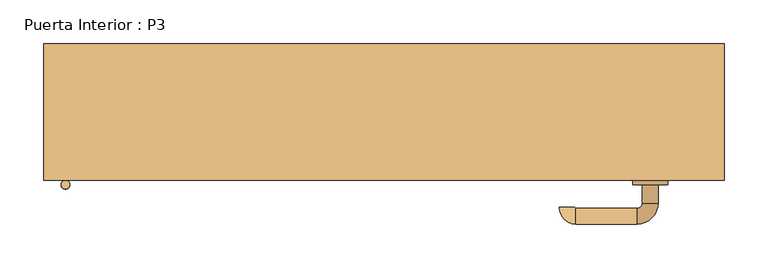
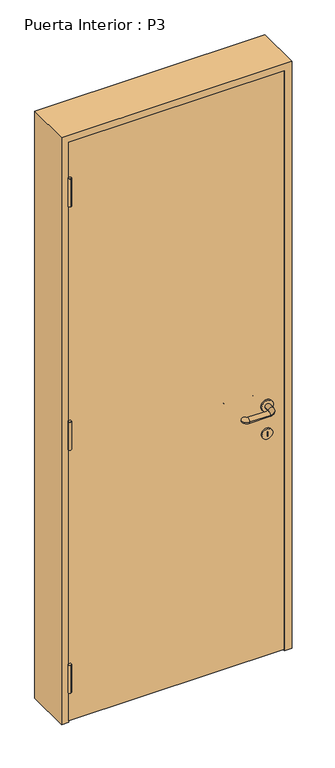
"""IFC4 building model written with IfcOpenShell, lengths in millimetres: door geometry, Puerta Interior : P3."""

from ifc_helpers import new_model, si_unit, point, frame, frame_2d, origin, place, context, project, spatial, polyline, circle_curve, ellipse_curve, trimmed, segment, composite_curve, outline, extrude, faceted_brep, source, transform, mapped, element, save
from ifc_brep_helpers import plane_surface, cylinder_surface, revolved_surface, advanced_brep


def puerta_interior_p3_6b3bcaa5(model_context):
    return source(origin(), model_context, "Body", "SolidModel", [
        extrude(outline(composite_curve([segment(trimmed(circle_curve(frame_2d((900.0, 305.0)), 20.0), [point((900.0, 325.0))], [point((900.0, 285.0))], False, "CARTESIAN"), True, "CONTINUOUS"), segment(trimmed(circle_curve(frame_2d((900.0, 305.0)), 20.0), [point((900.0, 285.0))], [point((900.0, 325.0))], False, "CARTESIAN"), True, "CONTINUOUS")], self_intersect=False)), frame((0.0, -38.25, 0.0), z_axis=(0.0, 1.0, 0.0), x_axis=(0.0, 0.0, 1.0)), (0.0, 0.0, 1.0), 5.0),
        advanced_brep(
        [(296.0, -33.25, 900.0), (314.0, -33.25, 900.0), (314.0, -12.25, 900.0), (296.0, -12.25, 900.0), (290.0, 11.75, 900.0), (290.0, -6.25, 900.0), (219.797959, 11.75, 900.0), (219.797959, -6.25, 900.0), (218.797959, -7.25, 900.0), (200.797959, -7.25, 900.0)],
        [
            (0, 1, circle_curve(frame((305.0, -33.25, 900.0), z_axis=(0.0, -1.0, 0.0), x_axis=(1.0, 0.0, 0.0)), 9.0)),
            (1, 0, circle_curve(frame((305.0, -33.25, 900.0), z_axis=(0.0, -1.0, 0.0), x_axis=(1.0, 0.0, 0.0)), 9.0)),
            (1, 2),
            (2, 3, circle_curve(frame((305.0, -12.25, 900.0), z_axis=(0.0, -1.0, 0.0), x_axis=(1.0, 0.0, 0.0)), 9.0)),
            (3, 0),
            (3, 2, circle_curve(frame((305.0, -12.25, 900.0), z_axis=(0.0, -1.0, 0.0), x_axis=(1.0, 0.0, 0.0)), 9.0)),
            (4, 5, circle_curve(frame((290.0, 2.75, 900.0), z_axis=(1.0, 0.0, 0.0), x_axis=(0.0, 1.0, 0.0)), 9.0)),
            (5, 3, circle_curve(frame((290.0, -12.25, 900.0), z_axis=(0.0, 0.0, -1.0), x_axis=(1.0, 0.0, 0.0)), 6.0)),
            (2, 4, circle_curve(frame((290.0, -12.25, 900.0), z_axis=(0.0, 0.0, 1.0), x_axis=(1.0, 0.0, 0.0)), 24.0)),
            (5, 4, circle_curve(frame((290.0, 2.75, 900.0), z_axis=(1.0, 0.0, 0.0), x_axis=(0.0, 1.0, 0.0)), 9.0)),
            (4, 6),
            (6, 7, circle_curve(frame((219.797959, 2.75, 900.0), z_axis=(1.0, 0.0, 0.0), x_axis=(0.0, 1.0, 0.0)), 9.0)),
            (7, 5),
            (7, 6, circle_curve(frame((219.797959, 2.75, 900.0), z_axis=(1.0, 0.0, 0.0), x_axis=(0.0, 1.0, 0.0)), 9.0)),
            (8, 9, circle_curve(frame((209.797959, -7.25, 900.0), z_axis=(0.0, -1.0, 0.0), x_axis=(-1.0, 0.0, 0.0)), 9.0)),
            (9, 8, circle_curve(frame((209.797959, -7.25, 900.0), z_axis=(0.0, -1.0, 0.0), x_axis=(-1.0, 0.0, 0.0)), 9.0)),
            (8, 7, circle_curve(frame((219.797959, -7.25, 900.0), z_axis=(0.0, 0.0, -1.0), x_axis=(0.0, 1.0, 0.0)), 1.0)),
            (6, 9, circle_curve(frame((219.797959, -7.25, 900.0), z_axis=(0.0, 0.0, 1.0), x_axis=(0.0, 1.0, 0.0)), 19.0)),
        ],
        [
            plane_surface(frame((305.0, -33.25, 900.0), z_axis=(0.0, -1.0, 0.0), x_axis=(0.0, 0.0, 1.0))),
            cylinder_surface(frame((305.0, -33.25, 900.0), z_axis=(0.0, -1.0, 0.0), x_axis=(1.0, 0.0, 0.0)), 9.0),
            revolved_surface(trimmed(ellipse_curve(frame((305.0, -12.25, 900.0), z_axis=(0.0, 1.0, 0.0), x_axis=(1.0, 0.0, 0.0)), 9.0, 9.0), [point((296.0, -12.25, 900.0))], [point((314.0, -12.25, 900.0))], True, "CARTESIAN"), (290.0, -12.25, 900.0), (0.0, 0.0, -1.0)),
            revolved_surface(trimmed(ellipse_curve(frame((305.0, -12.25, 900.0), z_axis=(0.0, 1.0, 0.0), x_axis=(1.0, 0.0, 0.0)), 9.0, 9.0), [point((314.0, -12.25, 900.0))], [point((296.0, -12.25, 900.0))], True, "CARTESIAN"), (290.0, -12.25, 900.0), (0.0, 0.0, -1.0)),
            cylinder_surface(frame((290.0, 2.75, 900.0), z_axis=(1.0, 0.0, 0.0), x_axis=(0.0, 1.0, 0.0)), 9.0),
            plane_surface(frame((209.797959, -7.25, 900.0), z_axis=(0.0, -1.0, 0.0), x_axis=(0.0, 0.0, 1.0))),
            revolved_surface(trimmed(ellipse_curve(frame((219.797959, 2.75, 900.0), z_axis=(-1.0, 0.0, 0.0), x_axis=(0.0, 1.0, 0.0)), 9.0, 9.0), [point((219.797959, -6.25, 900.0))], [point((219.797959, 11.75, 900.0))], True, "CARTESIAN"), (219.797959, -7.25, 900.0), (0.0, 0.0, -1.0)),
            revolved_surface(trimmed(ellipse_curve(frame((219.797959, 2.75, 900.0), z_axis=(-1.0, 0.0, 0.0), x_axis=(0.0, 1.0, 0.0)), 9.0, 9.0), [point((219.797959, 11.75, 900.0))], [point((219.797959, -6.25, 900.0))], True, "CARTESIAN"), (219.797959, -7.25, 900.0), (0.0, 0.0, -1.0)),
        ],
        [
            (0, [[1, 2]]),
            (1, [[3, 4, 5, -2]]),
            (1, [[-5, 6, -3, -1]]),
            (2, [[7, 8, -4, 9]]),
            (3, [[10, -9, -6, -8]]),
            (4, [[11, 12, 13, -7]]),
            (4, [[-13, 14, -11, -10]]),
            (5, [[15, 16]]),
            (6, [[-15, 17, -12, 18]]),
            (7, [[-16, -18, -14, -17]]),
        ],
    ),
        extrude(outline(composite_curve([segment(trimmed(circle_curve(frame_2d((900.0, 305.0)), 20.0), [point((900.0, 325.0))], [point((900.0, 285.0))], False, "CARTESIAN"), True, "CONTINUOUS"), segment(trimmed(circle_curve(frame_2d((900.0, 305.0)), 20.0), [point((900.0, 285.0))], [point((900.0, 325.0))], False, "CARTESIAN"), True, "CONTINUOUS")], self_intersect=False)), frame((0.0, -83.25, 0.0), z_axis=(0.0, 1.0, 0.0), x_axis=(0.0, 0.0, 1.0)), (0.0, 0.0, 1.0), 5.0),
        advanced_brep(
        [(296.0, -83.25, 900.0), (314.0, -83.25, 900.0), (296.0, -104.25, 900.0), (314.0, -104.25, 900.0), (290.0, -128.25, 900.0), (290.0, -110.25, 900.0), (219.797959, -110.25, 900.0), (219.797959, -128.25, 900.0), (218.797959, -109.25, 900.0), (200.797959, -109.25, 900.0)],
        [
            (0, 1, circle_curve(frame((305.0, -83.25, 900.0), z_axis=(0.0, 1.0, 0.0), x_axis=(1.0, 0.0, 0.0)), 9.0)),
            (1, 0, circle_curve(frame((305.0, -83.25, 900.0), z_axis=(0.0, 1.0, 0.0), x_axis=(1.0, 0.0, 0.0)), 9.0)),
            (0, 2),
            (2, 3, circle_curve(frame((305.0, -104.25, 900.0), z_axis=(0.0, 1.0, 0.0), x_axis=(1.0, 0.0, 0.0)), 9.0)),
            (3, 1),
            (3, 2, circle_curve(frame((305.0, -104.25, 900.0), z_axis=(0.0, 1.0, 0.0), x_axis=(1.0, 0.0, 0.0)), 9.0)),
            (4, 3, circle_curve(frame((290.0, -104.25, 900.0), z_axis=(0.0, 0.0, 1.0), x_axis=(1.0, 0.0, 0.0)), 24.0)),
            (2, 5, circle_curve(frame((290.0, -104.25, 900.0), z_axis=(0.0, 0.0, -1.0), x_axis=(1.0, 0.0, 0.0)), 6.0)),
            (5, 4, circle_curve(frame((290.0, -119.25, 900.0), z_axis=(1.0, 0.0, 0.0), x_axis=(0.0, -1.0, 0.0)), 9.0)),
            (4, 5, circle_curve(frame((290.0, -119.25, 900.0), z_axis=(1.0, 0.0, 0.0), x_axis=(0.0, -1.0, 0.0)), 9.0)),
            (5, 6),
            (6, 7, circle_curve(frame((219.797959, -119.25, 900.0), z_axis=(1.0, 0.0, 0.0), x_axis=(0.0, -1.0, 0.0)), 9.0)),
            (7, 4),
            (7, 6, circle_curve(frame((219.797959, -119.25, 900.0), z_axis=(1.0, 0.0, 0.0), x_axis=(0.0, -1.0, 0.0)), 9.0)),
            (8, 9, circle_curve(frame((209.797959, -109.25, 900.0), z_axis=(0.0, 1.0, 0.0), x_axis=(-1.0, 0.0, 0.0)), 9.0)),
            (9, 8, circle_curve(frame((209.797959, -109.25, 900.0), z_axis=(0.0, 1.0, 0.0), x_axis=(-1.0, 0.0, 0.0)), 9.0)),
            (9, 7, circle_curve(frame((219.797959, -109.25, 900.0), z_axis=(0.0, 0.0, 1.0), x_axis=(0.0, -1.0, 0.0)), 19.0)),
            (6, 8, circle_curve(frame((219.797959, -109.25, 900.0), z_axis=(0.0, 0.0, -1.0), x_axis=(0.0, -1.0, 0.0)), 1.0)),
        ],
        [
            plane_surface(frame((305.0, -83.25, 900.0), z_axis=(0.0, 1.0, 0.0), x_axis=(0.0, 0.0, 1.0))),
            cylinder_surface(frame((305.0, -83.25, 900.0), z_axis=(0.0, 1.0, 0.0), x_axis=(1.0, 0.0, 0.0)), 9.0),
            revolved_surface(trimmed(ellipse_curve(frame((305.0, -104.25, 900.0), z_axis=(0.0, 1.0, 0.0), x_axis=(1.0, 0.0, 0.0)), 9.0, 9.0), [point((296.0, -104.25, 900.0))], [point((314.0, -104.25, 900.0))], True, "CARTESIAN"), (290.0, -104.25, 900.0), (0.0, 0.0, -1.0)),
            revolved_surface(trimmed(ellipse_curve(frame((305.0, -104.25, 900.0), z_axis=(0.0, 1.0, 0.0), x_axis=(1.0, 0.0, 0.0)), 9.0, 9.0), [point((314.0, -104.25, 900.0))], [point((296.0, -104.25, 900.0))], True, "CARTESIAN"), (290.0, -104.25, 900.0), (0.0, 0.0, -1.0)),
            cylinder_surface(frame((290.0, -119.25, 900.0), z_axis=(1.0, 0.0, 0.0), x_axis=(0.0, -1.0, 0.0)), 9.0),
            plane_surface(frame((209.797959, -109.25, 900.0), z_axis=(0.0, 1.0, 0.0), x_axis=(0.0, 0.0, 1.0))),
            revolved_surface(trimmed(ellipse_curve(frame((219.797959, -119.25, 900.0), z_axis=(1.0, 0.0, 0.0), x_axis=(0.0, -1.0, 0.0)), 9.0, 9.0), [point((219.797959, -110.25, 900.0))], [point((219.797959, -128.25, 900.0))], True, "CARTESIAN"), (219.797959, -109.25, 900.0), (0.0, 0.0, -1.0)),
            revolved_surface(trimmed(ellipse_curve(frame((219.797959, -119.25, 900.0), z_axis=(1.0, 0.0, 0.0), x_axis=(0.0, -1.0, 0.0)), 9.0, 9.0), [point((219.797959, -128.25, 900.0))], [point((219.797959, -110.25, 900.0))], True, "CARTESIAN"), (219.797959, -109.25, 900.0), (0.0, 0.0, -1.0)),
        ],
        [
            (0, [[1, 2]]),
            (1, [[-1, 3, 4, 5]]),
            (1, [[-2, -5, 6, -3]]),
            (2, [[7, -4, 8, 9]]),
            (3, [[-8, -6, -7, 10]]),
            (4, [[-9, 11, 12, 13]]),
            (4, [[-10, -13, 14, -11]]),
            (5, [[15, 16]]),
            (6, [[17, -12, 18, -16]]),
            (7, [[-18, -14, -17, -15]]),
        ],
    ),
        extrude(outline(composite_curve([segment(trimmed(circle_curve(frame_2d((800.0, 305.0)), 18.0), [point((800.0, 323.0))], [point((800.0, 287.0))], False, "CARTESIAN"), True, "CONTINUOUS"), segment(trimmed(circle_curve(frame_2d((800.0, 305.0)), 18.0), [point((800.0, 287.0))], [point((800.0, 323.0))], False, "CARTESIAN"), True, "CONTINUOUS")], self_intersect=False), holes=[polyline([(791.5189471, 305.9764977), (791.5189471, 304.0063037), (807.7059713, 304.0063037), (807.7059713, 305.9764977), (791.5189471, 305.9764977)])]), frame((0.0, -83.25, 0.0), z_axis=(0.0, 1.0, 0.0), x_axis=(0.0, 0.0, 1.0)), (0.0, 0.0, 1.0), 50.0),
        extrude(outline(polyline([(-365.0, -78.25), (-365.0, -38.25), (365.0, -38.25), (365.0, -78.25), (-365.0, -78.25)])), frame((0.0, 0.0, 5.0), z_axis=(0.0, 0.0, 1.0), x_axis=(1.0, 0.0, 0.0)), (0.0, 0.0, 1.0), 2070.0),
        faceted_brep([(365.0, -38.25, 0.0), (350.0, -38.25, 0.0), (350.0, -18.25, 0.0), (365.0, -18.25, 0.0), (365.0, 78.25, 0.0), (390.0, 78.25, 0.0), (390.0, -78.25, 0.0), (365.0, -78.25, 0.0), (365.0, -78.25, 2075.0), (365.0, -38.25, 2075.0), (390.0, -78.25, 2100.0), (-390.0, -78.25, 2100.0), (-390.0, -78.25, 0.0), (-365.0, -78.25, 0.0), (-365.0, -78.25, 2075.0), (390.0, 78.25, 2100.0), (365.0, 78.25, 2075.0), (-365.0, 78.25, 2075.0), (-365.0, 78.25, 0.0), (-390.0, 78.25, 0.0), (-390.0, 78.25, 2100.0), (365.0, -18.25, 2075.0), (350.0, -18.25, 2060.0), (-350.0, -18.25, 2060.0), (-350.0, -18.25, 0.0), (-365.0, -18.25, 0.0), (-365.0, -18.25, 2075.0), (350.0, -38.25, 2060.0), (-365.0, -38.25, 2075.0), (-365.0, -38.25, 0.0), (-350.0, -38.25, 0.0), (-350.0, -38.25, 2060.0)], [[[0, 1, 2, 3, 4, 5, 6, 7]], [[7, 8, 9, 0]], [[6, 10, 11, 12, 13, 14, 8, 7]], [[5, 15, 10, 6]], [[4, 16, 17, 18, 19, 20, 15, 5]], [[3, 21, 16, 4]], [[2, 22, 23, 24, 25, 26, 21, 3]], [[1, 27, 22, 2]], [[0, 9, 28, 29, 30, 31, 27, 1]], [[14, 13, 29, 28]], [[29, 13, 12, 19, 18, 25, 24, 30]], [[20, 19, 12, 11]], [[26, 25, 18, 17]], [[31, 30, 24, 23]], [[8, 14, 28, 9]], [[15, 20, 11, 10]], [[21, 26, 17, 16]], [[27, 31, 23, 22]]]),
        extrude(outline(composite_curve([segment(trimmed(circle_curve(frame_2d((-365.0, -83.25)), 5.0), [point((-365.0, -78.25))], [point((-365.0, -88.25))], False, "CARTESIAN"), True, "CONTINUOUS"), segment(trimmed(circle_curve(frame_2d((-365.0, -83.25)), 5.0), [point((-365.0, -88.25))], [point((-365.0, -78.25))], False, "CARTESIAN"), True, "CONTINUOUS")], self_intersect=False)), frame((0.0, 0.0, 1850.0), z_axis=(0.0, 0.0, 1.0), x_axis=(1.0, 0.0, 0.0)), (0.0, 0.0, 1.0), 100.0),
        extrude(outline(composite_curve([segment(trimmed(circle_curve(frame_2d((-365.0, -83.25)), 5.0), [point((-370.0, -83.25))], [point((-360.0, -83.25))], False, "CARTESIAN"), True, "CONTINUOUS"), segment(trimmed(circle_curve(frame_2d((-365.0, -83.25)), 5.0), [point((-360.0, -83.25))], [point((-370.0, -83.25))], False, "CARTESIAN"), True, "CONTINUOUS")], self_intersect=False)), frame((0.0, 0.0, 980.0), z_axis=(0.0, 0.0, 1.0), x_axis=(1.0, 0.0, 0.0)), (0.0, 0.0, 1.0), 100.0),
        extrude(outline(composite_curve([segment(trimmed(circle_curve(frame_2d((-365.0, -83.25)), 5.0), [point((-365.0, -78.25))], [point((-365.0, -88.25))], False, "CARTESIAN"), True, "CONTINUOUS"), segment(trimmed(circle_curve(frame_2d((-365.0, -83.25)), 5.0), [point((-365.0, -88.25))], [point((-365.0, -78.25))], False, "CARTESIAN"), True, "CONTINUOUS")], self_intersect=False)), frame((0.0, 0.0, 110.0), z_axis=(0.0, 0.0, 1.0), x_axis=(1.0, 0.0, 0.0)), (0.0, 0.0, 1.0), 100.0),
    ])


if __name__ == "__main__":
    model = new_model("IFC4")
    model_context = context("Model", 3, world=origin())
    ifc_project = project(units=[si_unit("LENGTHUNIT", "METRE", prefix="MILLI")], contexts=[model_context])
    site = spatial("IfcSite", under=ifc_project)
    building = spatial("IfcBuilding", under=site)
    placement = place(None, origin())
    puerta_interior_p3_shape = puerta_interior_p3_6b3bcaa5(model_context)
    element("IfcDoor", 1, ObjectType="Puerta Interior : P3", at=placement, inside=building, context=model_context, shape_type="MappedRepresentation", body=[
        mapped(puerta_interior_p3_shape, transform((0.0, 0.0, 0.0), x_axis=(1.0, 0.0, 0.0), y_axis=(0.0, 1.0, 0.0), z_axis=(0.0, 0.0, 1.0))),
    ])
    save(model, "model.ifc")
